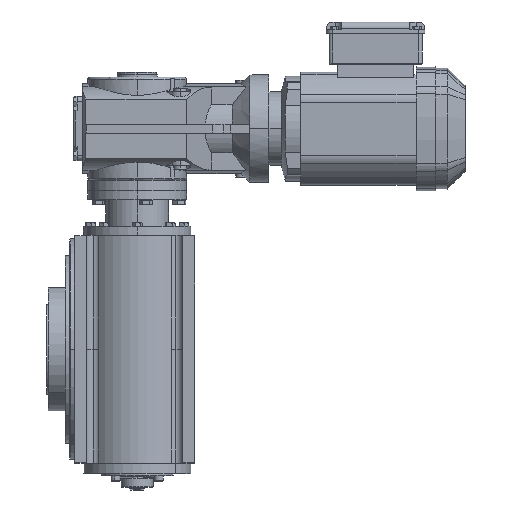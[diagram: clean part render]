
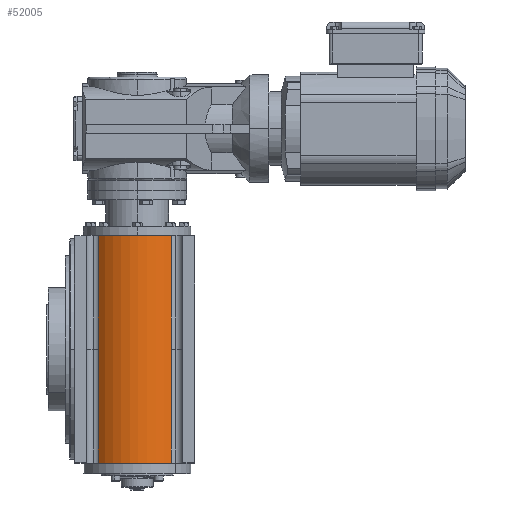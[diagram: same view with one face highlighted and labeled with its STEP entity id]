
A CAD part, left-side view. The second image highlights one B-rep face of the part: STEP entity #52005.
In plain terms, the highlighted cylindrical face has radius 60 mm (diameter 120 mm), a partial arc.
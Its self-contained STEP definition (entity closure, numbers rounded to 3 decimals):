
#4746 = DIRECTION ( 'NONE',  ( 0., 0., 1. ) ) ;
#5967 = AXIS2_PLACEMENT_3D ( 'NONE', #19904, #44506, #13870 ) ;
#7036 = VERTEX_POINT ( 'NONE', #21108 ) ;
#7376 = CYLINDRICAL_SURFACE ( 'NONE', #5967, 60. ) ;
#8030 = VERTEX_POINT ( 'NONE', #53669 ) ;
#8092 = EDGE_CURVE ( 'NONE', #8030, #78967, #64437, .T. ) ;
#10184 = DIRECTION ( 'NONE',  ( 0., 0., 1. ) ) ;
#13870 = DIRECTION ( 'NONE',  ( 1., 0., 0. ) ) ;
#14148 = VECTOR ( 'NONE', #36194, 1000. ) ;
#14308 = AXIS2_PLACEMENT_3D ( 'NONE', #61184, #4746, #73308 ) ;
#14594 = CARTESIAN_POINT ( 'NONE',  ( -126.602, 107.235, -121.981 ) ) ;
#16035 = EDGE_CURVE ( 'NONE', #8030, #61387, #26252, .T. ) ;
#16248 = CARTESIAN_POINT ( 'NONE',  ( -131.481, 26.059, -121.981 ) ) ;
#16561 = ORIENTED_EDGE ( 'NONE', *, *, #51432, .T. ) ;
#19904 = CARTESIAN_POINT ( 'NONE',  ( -85., 64., -121.981 ) ) ;
#19935 = CARTESIAN_POINT ( 'NONE',  ( -126.602, 107.235, -121.981 ) ) ;
#21108 = CARTESIAN_POINT ( 'NONE',  ( -131.481, 26.059, -127. ) ) ;
#22262 = LINE ( 'NONE', #16248, #54715 ) ;
#25589 = LINE ( 'NONE', #19935, #37502 ) ;
#25660 = CARTESIAN_POINT ( 'NONE',  ( -126.602, 107.235, 0. ) ) ;
#26252 = LINE ( 'NONE', #14594, #14148 ) ;
#26405 = ORIENTED_EDGE ( 'NONE', *, *, #71608, .F. ) ;
#31220 = CARTESIAN_POINT ( 'NONE',  ( -131.481, 26.059, 0. ) ) ;
#35131 = CIRCLE ( 'NONE', #67241, 60. ) ;
#36194 = DIRECTION ( 'NONE',  ( 0., 0., -1. ) ) ;
#37502 = VECTOR ( 'NONE', #38502, 1000. ) ;
#38502 = DIRECTION ( 'NONE',  ( 0., 0., -1. ) ) ;
#40248 = CARTESIAN_POINT ( 'NONE',  ( -131.481, 26.059, 127. ) ) ;
#44506 = DIRECTION ( 'NONE',  ( 0., 0., 1. ) ) ;
#46256 = DIRECTION ( 'NONE',  ( -1., 0., 0. ) ) ;
#48806 = VECTOR ( 'NONE', #69959, 1000. ) ;
#48876 = CARTESIAN_POINT ( 'NONE',  ( -126.602, 107.235, -127. ) ) ;
#51415 = CARTESIAN_POINT ( 'NONE',  ( -131.481, 26.059, -121.981 ) ) ;
#51432 = EDGE_CURVE ( 'NONE', #7036, #67234, #22262, .T. ) ;
#51613 = EDGE_LOOP ( 'NONE', ( #16561, #65863, #69860, #54497, #57588, #26405 ) ) ;
#52005 = ADVANCED_FACE ( 'NONE', ( #74365 ), #7376, .T. ) ;
#52675 = CARTESIAN_POINT ( 'NONE',  ( -85., 64., -127. ) ) ;
#53669 = CARTESIAN_POINT ( 'NONE',  ( -126.602, 107.235, 127. ) ) ;
#54497 = ORIENTED_EDGE ( 'NONE', *, *, #16035, .T. ) ;
#54715 = VECTOR ( 'NONE', #10184, 1000. ) ;
#57588 = ORIENTED_EDGE ( 'NONE', *, *, #76481, .T. ) ;
#61184 = CARTESIAN_POINT ( 'NONE',  ( -85., 64., 127. ) ) ;
#61387 = VERTEX_POINT ( 'NONE', #25660 ) ;
#62078 = EDGE_CURVE ( 'NONE', #67234, #78967, #64286, .T. ) ;
#64286 = LINE ( 'NONE', #51415, #48806 ) ;
#64437 = CIRCLE ( 'NONE', #14308, 60. ) ;
#65557 = DIRECTION ( 'NONE',  ( 0., 0., -1. ) ) ;
#65863 = ORIENTED_EDGE ( 'NONE', *, *, #62078, .T. ) ;
#67234 = VERTEX_POINT ( 'NONE', #31220 ) ;
#67241 = AXIS2_PLACEMENT_3D ( 'NONE', #52675, #65557, #46256 ) ;
#69860 = ORIENTED_EDGE ( 'NONE', *, *, #8092, .F. ) ;
#69957 = VERTEX_POINT ( 'NONE', #48876 ) ;
#69959 = DIRECTION ( 'NONE',  ( 0., 0., 1. ) ) ;
#71608 = EDGE_CURVE ( 'NONE', #7036, #69957, #35131, .T. ) ;
#73308 = DIRECTION ( 'NONE',  ( 1., 0., 0. ) ) ;
#74365 = FACE_OUTER_BOUND ( 'NONE', #51613, .T. ) ;
#76481 = EDGE_CURVE ( 'NONE', #61387, #69957, #25589, .T. ) ;
#78967 = VERTEX_POINT ( 'NONE', #40248 ) ;
